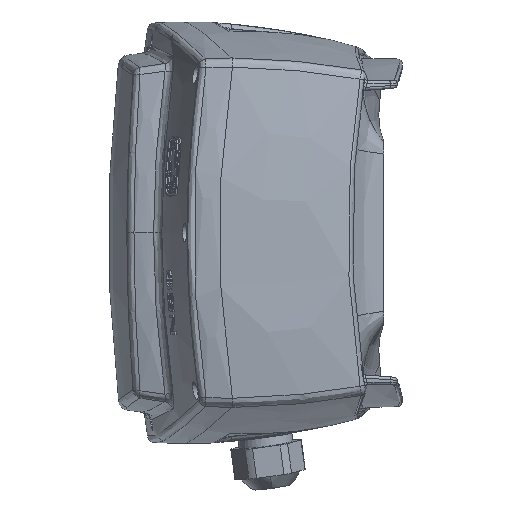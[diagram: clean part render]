
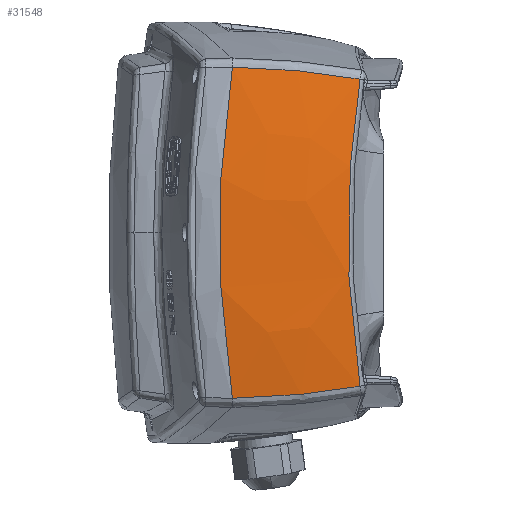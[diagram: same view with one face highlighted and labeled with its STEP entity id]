
A CAD part, left-side view. The second image highlights one B-rep face of the part: STEP entity #31548.
In plain terms, the highlighted free-form (B-spline) face has degree [3, 3] with [4, 8] control points.
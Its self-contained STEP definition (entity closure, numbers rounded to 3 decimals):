
#8456=CARTESIAN_POINT('',(-173.354,-23.443,
81.948));
#8466=CARTESIAN_POINT('',(-173.354,-23.443,
81.948));
#8467=CARTESIAN_POINT('',(-173.711,-23.078,
79.701));
#8468=CARTESIAN_POINT('',(-174.437,-22.361,
74.886));
#8469=CARTESIAN_POINT('',(-175.539,-21.245,
66.818));
#8470=CARTESIAN_POINT('',(-176.633,-20.143,
57.656));
#8471=CARTESIAN_POINT('',(-177.686,-19.076,
47.212));
#8472=CARTESIAN_POINT('',(-178.624,-18.124,
35.27));
#8473=CARTESIAN_POINT('',(-179.27,-17.465,
23.595));
#8474=CARTESIAN_POINT('',(-179.663,-17.062,
11.826));
#8475=CARTESIAN_POINT('',(-179.795,-16.928,
0.084));
#8476=CARTESIAN_POINT('',(-179.667,-17.059,
-11.659));
#8477=CARTESIAN_POINT('',(-179.279,-17.456,
-23.416));
#8478=CARTESIAN_POINT('',(-178.631,-18.118,
-35.144));
#8479=CARTESIAN_POINT('',(-177.719,-19.043,
-46.872));
#8480=CARTESIAN_POINT('',(-176.543,-20.233,
-58.597));
#8481=CARTESIAN_POINT('',(-175.103,-21.686,
-70.293));
#8482=CARTESIAN_POINT('',(-173.967,-22.828,
-78.068));
#8483=CARTESIAN_POINT('',(-173.354,-23.443,
-81.948));
#8485=CARTESIAN_POINT('',(-182.432,44.74,
-88.392));
#8486=CARTESIAN_POINT('',(-182.011,38.502,
-88.299));
#8487=CARTESIAN_POINT('',(-180.97,26.205,
-87.863));
#8488=CARTESIAN_POINT('',(-178.742,7.691,
-86.401));
#8489=CARTESIAN_POINT('',(-176.145,-8.966,
-84.364));
#8490=CARTESIAN_POINT('',(-174.291,-18.819,
-82.773));
#8491=CARTESIAN_POINT('',(-173.354,-23.443,
-81.948));
#8493=CARTESIAN_POINT('',(-182.432,44.74,
-88.392));
#8494=CARTESIAN_POINT('',(-184.325,46.438,
-77.421));
#8495=CARTESIAN_POINT('',(-187.58,49.382,
-54.071));
#8496=CARTESIAN_POINT('',(-190.109,51.696,
-18.501));
#8497=CARTESIAN_POINT('',(-190.109,51.696,18.501));
#8498=CARTESIAN_POINT('',(-187.58,49.382,54.071));
#8499=CARTESIAN_POINT('',(-184.324,46.437,77.421));
#8500=CARTESIAN_POINT('',(-182.432,44.74,88.392));
#8502=CARTESIAN_POINT('',(-173.354,-23.443,
81.948));
#8503=CARTESIAN_POINT('',(-174.288,-18.831,
82.771));
#8504=CARTESIAN_POINT('',(-176.127,-9.061,
84.347));
#8505=CARTESIAN_POINT('',(-178.672,7.234,86.347));
#8506=CARTESIAN_POINT('',(-180.878,25.303,87.812));
#8507=CARTESIAN_POINT('',(-181.985,38.112,88.294));
#8508=CARTESIAN_POINT('',(-182.432,44.74,88.392));
#8567=CARTESIAN_POINT('',(-182.432,44.74,88.392));
#8579=CARTESIAN_POINT('',(-182.432,44.74,
-88.392));
#12492=VERTEX_POINT('',#8567);
#12495=VERTEX_POINT('',#8579);
#12537=VERTEX_POINT('',#8456);
#12539=VERTEX_POINT('',#8483);
#31507=CARTESIAN_POINT('',(-181.024,44.301,
-96.519));
#31508=CARTESIAN_POINT('',(-183.6,46.601,
-82.882));
#31509=CARTESIAN_POINT('',(-187.442,50.069,
-56.816));
#31510=CARTESIAN_POINT('',(-190.169,52.559,
-18.532));
#31511=CARTESIAN_POINT('',(-190.169,52.559,
18.532));
#31512=CARTESIAN_POINT('',(-187.442,50.069,
56.817));
#31513=CARTESIAN_POINT('',(-183.6,46.601,
82.884));
#31514=CARTESIAN_POINT('',(-181.024,44.301,
96.521));
#31515=CARTESIAN_POINT('',(-180.162,20.916,
-92.412));
#31516=CARTESIAN_POINT('',(-182.534,23.13,
-79.303));
#31517=CARTESIAN_POINT('',(-186.059,26.464,
-54.295));
#31518=CARTESIAN_POINT('',(-188.551,28.85,
-17.701));
#31519=CARTESIAN_POINT('',(-188.551,28.85,
17.701));
#31520=CARTESIAN_POINT('',(-186.059,26.464,
54.296));
#31521=CARTESIAN_POINT('',(-182.533,23.13,
79.305));
#31522=CARTESIAN_POINT('',(-180.162,20.915,
92.414));
#31523=CARTESIAN_POINT('',(-177.416,-2.298,
-87.978));
#31524=CARTESIAN_POINT('',(-179.575,-0.168,
-75.444));
#31525=CARTESIAN_POINT('',(-182.773,3.032,
-51.583));
#31526=CARTESIAN_POINT('',(-185.021,5.315,
-16.807));
#31527=CARTESIAN_POINT('',(-185.021,5.315,
16.807));
#31528=CARTESIAN_POINT('',(-182.772,3.032,
51.584));
#31529=CARTESIAN_POINT('',(-179.574,-0.168,
75.446));
#31530=CARTESIAN_POINT('',(-177.416,-2.299,
87.981));
#31531=CARTESIAN_POINT('',(-172.832,-25.028,
-83.28));
#31532=CARTESIAN_POINT('',(-174.773,-22.98,
-71.359));
#31533=CARTESIAN_POINT('',(-177.636,-19.911,
-48.717));
#31534=CARTESIAN_POINT('',(-179.636,-17.728,
-15.864));
#31535=CARTESIAN_POINT('',(-179.636,-17.728,
15.864));
#31536=CARTESIAN_POINT('',(-177.636,-19.911,
48.718));
#31537=CARTESIAN_POINT('',(-174.773,-22.981,
71.36));
#31538=CARTESIAN_POINT('',(-172.832,-25.028,
83.282));
#31539=B_SPLINE_SURFACE_WITH_KNOTS('',3,3,((#31507,#31508,#31509,#31510,#31511,
#31512,#31513,#31514),(#31515,#31516,#31517,#31518,#31519,#31520,#31521,#31522),
(#31523,#31524,#31525,#31526,#31527,#31528,#31529,#31530),(#31531,#31532,#31533,
#31534,#31535,#31536,#31537,#31538)),.UNSPECIFIED.,.F.,.F.,.F.,(4,4),(4,1,1,1,1,
4),(-0.009,0.731),(-0.021,0.2,0.4,0.6,
0.8,1.021),.UNSPECIFIED.);
#31540=ORIENTED_EDGE('',*,*,#26626,.T.);
#31542=ORIENTED_EDGE('',*,*,#31541,.F.);
#31544=ORIENTED_EDGE('',*,*,#31543,.T.);
#31545=ORIENTED_EDGE('',*,*,#31497,.F.);
#31546=EDGE_LOOP('',(#31540,#31542,#31544,#31545));
#31547=FACE_OUTER_BOUND('',#31546,.F.);
#31548=ADVANCED_FACE('',(#31547),#31539,.T.);
#8484=B_SPLINE_CURVE_WITH_KNOTS('',3,(#8466,#8467,#8468,#8469,#8470,#8471,#8472,
#8473,#8474,#8475,#8476,#8477,#8478,#8479,#8480,#8481,#8482,#8483),
.UNSPECIFIED.,.F.,.F.,(4,1,1,1,1,1,1,1,1,1,1,1,1,1,1,4),(0.,0.067,
0.133,0.2,0.267,0.333,0.4,
0.467,0.533,0.6,0.667,0.733,
0.8,0.867,0.933,1.),.UNSPECIFIED.);
#8492=B_SPLINE_CURVE_WITH_KNOTS('',3,(#8485,#8486,#8487,#8488,#8489,#8490,
#8491),.UNSPECIFIED.,.F.,.F.,(4,1,1,1,4),(0.,0.25,0.5,0.75,1.),
.UNSPECIFIED.);
#8501=B_SPLINE_CURVE_WITH_KNOTS('',3,(#8493,#8494,#8495,#8496,#8497,#8498,#8499,
#8500),.UNSPECIFIED.,.F.,.F.,(4,1,1,1,1,4),(0.,0.186,
0.395,0.605,0.814,1.),.UNSPECIFIED.);
#8509=B_SPLINE_CURVE_WITH_KNOTS('',3,(#8502,#8503,#8504,#8505,#8506,#8507,
#8508),.UNSPECIFIED.,.F.,.F.,(4,1,1,1,4),(0.,0.25,0.5,0.75,1.),
.UNSPECIFIED.);
#26626=EDGE_CURVE('',#12537,#12539,#8484,.T.);
#31497=EDGE_CURVE('',#12537,#12492,#8509,.T.);
#31541=EDGE_CURVE('',#12495,#12539,#8492,.T.);
#31543=EDGE_CURVE('',#12495,#12492,#8501,.T.);
